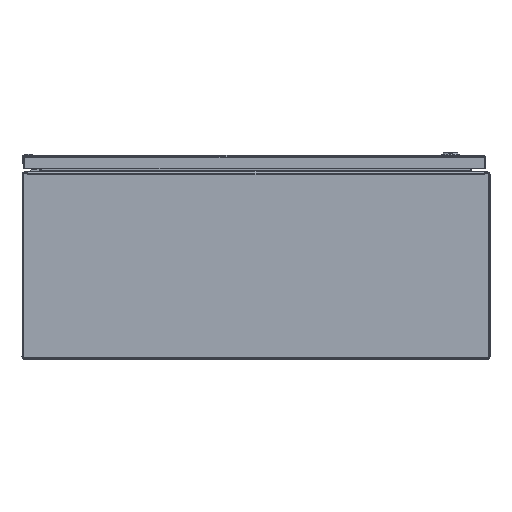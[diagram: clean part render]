
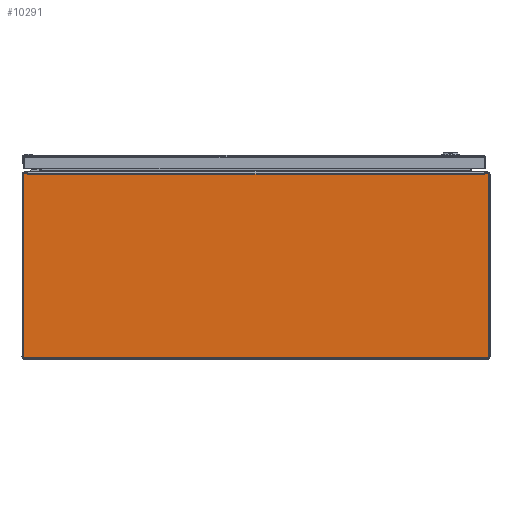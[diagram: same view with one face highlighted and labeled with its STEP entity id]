
A CAD part, front view. The second image highlights one B-rep face of the part: STEP entity #10291.
In plain terms, the highlighted planar face has unit normal (0, -1, 0).
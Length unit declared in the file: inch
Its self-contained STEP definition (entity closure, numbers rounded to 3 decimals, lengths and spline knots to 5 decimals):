
#9082=CARTESIAN_POINT('',(-14.915,0.,5.934));
#9083=DIRECTION('',(0.,-1.,0.));
#9084=DIRECTION('',(0.,0.,1.));
#9085=AXIS2_PLACEMENT_3D('',#9082,#9083,#9084);
#9090=DIRECTION('',(1.,0.,0.));
#9091=VECTOR('',#9090,0.2939);
#9092=CARTESIAN_POINT('',(-14.915,0.,5.994));
#9093=LINE('',#9092,#9091);
#9097=DIRECTION('',(1.,0.,0.));
#9098=VECTOR('',#9097,0.2939);
#9099=CARTESIAN_POINT('',(14.6211,0.,5.994));
#9100=LINE('',#9099,#9098);
#9104=CARTESIAN_POINT('',(14.915,0.,5.934));
#9105=DIRECTION('',(0.,-1.,0.));
#9106=DIRECTION('',(1.,0.,0.));
#9107=AXIS2_PLACEMENT_3D('',#9104,#9105,#9106);
#9112=DIRECTION('',(0.,0.,-1.));
#9113=VECTOR('',#9112,11.765);
#9114=CARTESIAN_POINT('',(14.975,0.,5.934));
#9115=LINE('',#9114,#9113);
#9119=CARTESIAN_POINT('',(14.85,0.,-5.831));
#9120=DIRECTION('',(0.,-1.,0.));
#9121=DIRECTION('',(0.,0.,-1.));
#9122=AXIS2_PLACEMENT_3D('',#9119,#9120,#9121);
#9127=DIRECTION('',(-1.,0.,0.));
#9128=VECTOR('',#9127,29.7);
#9129=CARTESIAN_POINT('',(14.85,0.,-5.956));
#9130=LINE('',#9129,#9128);
#9134=CARTESIAN_POINT('',(-14.85,0.,-5.831));
#9135=DIRECTION('',(0.,-1.,0.));
#9136=DIRECTION('',(-1.,0.,0.));
#9137=AXIS2_PLACEMENT_3D('',#9134,#9135,#9136);
#9142=DIRECTION('',(0.,0.,-1.));
#9143=VECTOR('',#9142,11.765);
#9144=CARTESIAN_POINT('',(-14.975,0.,5.934));
#9145=LINE('',#9144,#9143);
#9212=DIRECTION('',(0.,0.,-1.));
#9213=VECTOR('',#9212,0.125);
#9214=CARTESIAN_POINT('',(14.6211,0.,5.994));
#9215=LINE('',#9214,#9213);
#9800=DIRECTION('',(1.,0.,0.));
#9801=VECTOR('',#9800,29.2422);
#9802=CARTESIAN_POINT('',(-14.6211,0.,5.869));
#9803=LINE('',#9802,#9801);
#9837=DIRECTION('',(0.,0.,1.));
#9838=VECTOR('',#9837,0.125);
#9839=CARTESIAN_POINT('',(-14.6211,0.,5.869));
#9840=LINE('',#9839,#9838);
#10096=CARTESIAN_POINT('',(-14.6211,0.,5.869));
#10097=CARTESIAN_POINT('',(14.6211,0.,5.869));
#10098=VERTEX_POINT('',#10096);
#10099=VERTEX_POINT('',#10097);
#10180=CARTESIAN_POINT('',(-14.6211,0.,5.994));
#10182=VERTEX_POINT('',#10180);
#10184=CARTESIAN_POINT('',(14.6211,0.,5.994));
#10186=VERTEX_POINT('',#10184);
#10228=CARTESIAN_POINT('',(-14.915,0.,5.994));
#10229=CARTESIAN_POINT('',(-14.975,0.,5.934));
#10230=VERTEX_POINT('',#10228);
#10231=VERTEX_POINT('',#10229);
#10236=CARTESIAN_POINT('',(14.975,0.,5.934));
#10237=CARTESIAN_POINT('',(14.915,0.,5.994));
#10238=VERTEX_POINT('',#10236);
#10239=VERTEX_POINT('',#10237);
#10244=CARTESIAN_POINT('',(-14.975,0.,-5.831));
#10245=CARTESIAN_POINT('',(-14.85,0.,-5.956));
#10246=VERTEX_POINT('',#10244);
#10247=VERTEX_POINT('',#10245);
#10252=CARTESIAN_POINT('',(14.85,0.,-5.956));
#10253=CARTESIAN_POINT('',(14.975,0.,-5.831));
#10254=VERTEX_POINT('',#10252);
#10255=VERTEX_POINT('',#10253);
#10260=CARTESIAN_POINT('',(0.,0.,0.));
#10261=DIRECTION('',(0.,-1.,0.));
#10262=DIRECTION('',(-1.,0.,0.));
#10263=AXIS2_PLACEMENT_3D('',#10260,#10261,#10262);
#10264=PLANE('',#10263);
#10266=ORIENTED_EDGE('',*,*,#10265,.F.);
#10268=ORIENTED_EDGE('',*,*,#10267,.T.);
#10270=ORIENTED_EDGE('',*,*,#10269,.F.);
#10272=ORIENTED_EDGE('',*,*,#10271,.T.);
#10274=ORIENTED_EDGE('',*,*,#10273,.F.);
#10276=ORIENTED_EDGE('',*,*,#10275,.T.);
#10278=ORIENTED_EDGE('',*,*,#10277,.F.);
#10280=ORIENTED_EDGE('',*,*,#10279,.T.);
#10282=ORIENTED_EDGE('',*,*,#10281,.F.);
#10284=ORIENTED_EDGE('',*,*,#10283,.T.);
#10286=ORIENTED_EDGE('',*,*,#10285,.F.);
#10288=ORIENTED_EDGE('',*,*,#10287,.F.);
#10289=EDGE_LOOP('',(#10266,#10268,#10270,#10272,#10274,#10276,#10278,#10280,
#10282,#10284,#10286,#10288));
#10290=FACE_OUTER_BOUND('',#10289,.F.);
#9086=CIRCLE('',#9085,0.06);
#9108=CIRCLE('',#9107,0.06);
#9123=CIRCLE('',#9122,0.125);
#9138=CIRCLE('',#9137,0.125);
#10265=EDGE_CURVE('',#10230,#10231,#9086,.T.);
#10267=EDGE_CURVE('',#10230,#10182,#9093,.T.);
#10269=EDGE_CURVE('',#10098,#10182,#9840,.T.);
#10271=EDGE_CURVE('',#10098,#10099,#9803,.T.);
#10273=EDGE_CURVE('',#10186,#10099,#9215,.T.);
#10275=EDGE_CURVE('',#10186,#10239,#9100,.T.);
#10277=EDGE_CURVE('',#10238,#10239,#9108,.T.);
#10279=EDGE_CURVE('',#10238,#10255,#9115,.T.);
#10281=EDGE_CURVE('',#10254,#10255,#9123,.T.);
#10283=EDGE_CURVE('',#10254,#10247,#9130,.T.);
#10285=EDGE_CURVE('',#10246,#10247,#9138,.T.);
#10287=EDGE_CURVE('',#10231,#10246,#9145,.T.);
#10291=ADVANCED_FACE('',(#10290),#10264,.T.);
